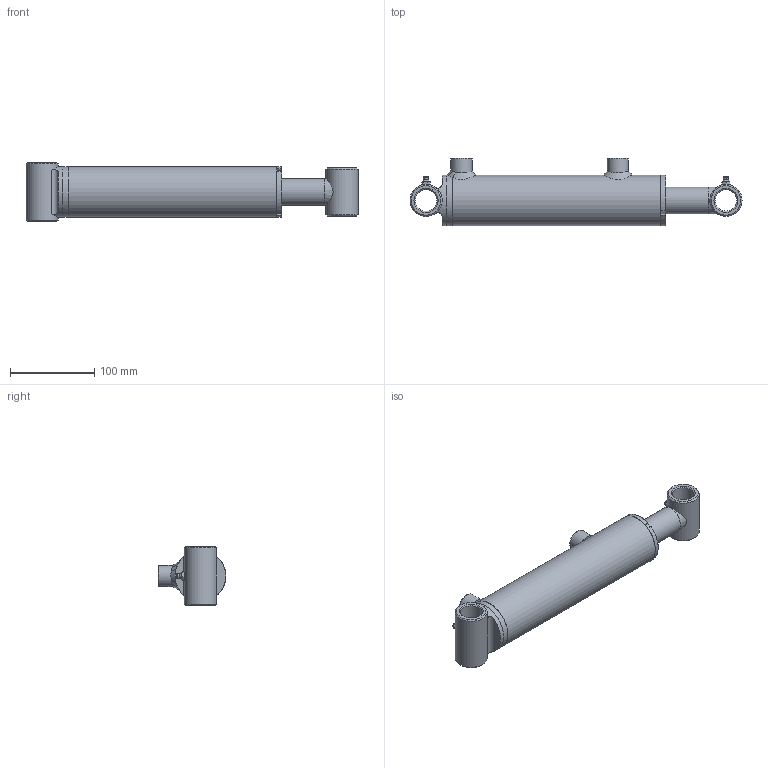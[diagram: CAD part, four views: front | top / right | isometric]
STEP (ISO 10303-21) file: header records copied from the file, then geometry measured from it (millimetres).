
FILE_DESCRIPTION(/* description */ (''),/* implementation_level */ '2;1');
FILE_NAME(/* name */ 'C:\01 - Philip\00 - Philip Rivard\01 - Contracts\Eagle Hydraulic Components\00 - 3D Cylinder\01 - Standard\HBU\HBU20XX\STEP\HBU2006.stp',/* time_stamp */ '2015-05-19T19:56:20-04:00',/* author */ ('Philip'),/* organization */ (''),/* preprocessor_version */ 'ST-DEVELOPER v16.1',/* originating_system */ 'Autodesk Inventor 2016',/* authorisation */ '');
FILE_SCHEMA (('AUTOMOTIVE_DESIGN { 1 0 10303 214 3 1 1 }'));
Length unit declared in the file: inch
Products named in the file (12): Tube_Welding_Welds; ECP-20-HBU; Tube; Straight_Port; Gland; Grease Fitting 1-8; Tube_Welding; Rod_Welding_Welds; Rod; Bushing; Rod_Welding; Cylinder_Assembly
Assembly tree (13 placements, depth 3):
  Cylinder_Assembly
    Tube_Welding
      Tube_Welding_Welds
      ECP-20-HBU
      Tube
      Straight_Port  x2
      Gland
      Grease Fitting 1-8
    Rod_Welding
      Rod_Welding_Welds
      Rod
      Bushing
      Grease Fitting 1-8
Bounding box: 393.7 x 80.33 x 69.8 mm (x, y, z)
Volume: 609994.2 mm3; surface area: 184051.4 mm2
Topology: 12 solids, 12 shells, 197 faces, 429 edges, 260 vertices
Faces by surface type: cone 65, plane 55, cylinder 50, torus 15, bspline 10, sphere 2
Full cylindrical faces by diameter (mm): 4 x2, 5 x1, 7.5 x2, 8 x2, 10 x2, 12.751 x2, 22 x1, 25 x4, 25.4 x2, 25.65 x2, 26 x1, 26.25 x1, 31.75 x2, 38.1 x2, 43 x1, 44.45 x1, 50.546 x1, 50.75 x1, 50.8 x1, 51 x1, 55 x4, 60.3 x1, 60.325 x1
Entity records: 5990 total; most frequent: CARTESIAN_POINT 2800, DIRECTION 631, ORIENTED_EDGE 486, AXIS2_PLACEMENT_3D 293, EDGE_LOOP 270, EDGE_CURVE 243, VERTEX_POINT 191, ADVANCED_FACE 157
